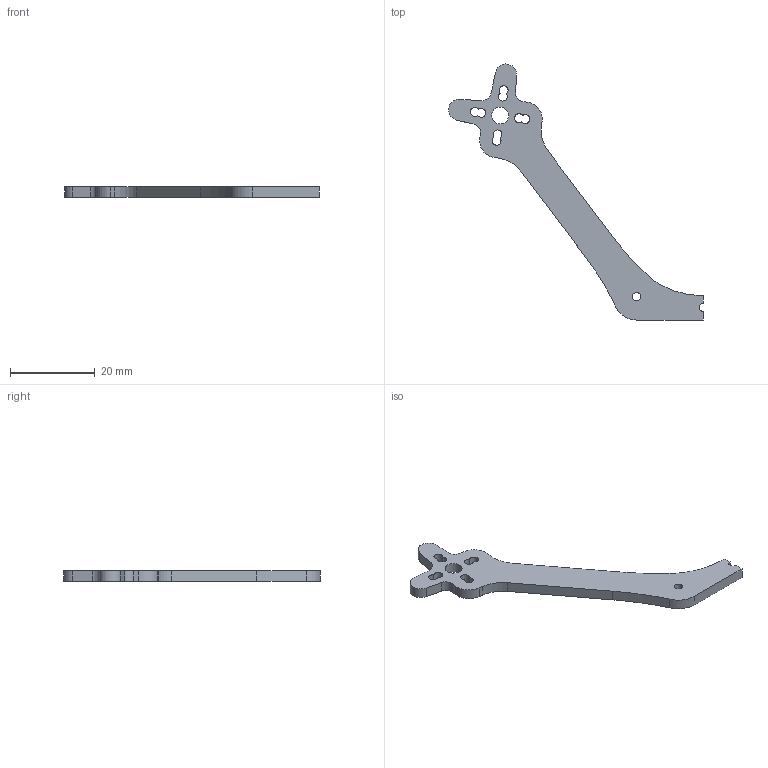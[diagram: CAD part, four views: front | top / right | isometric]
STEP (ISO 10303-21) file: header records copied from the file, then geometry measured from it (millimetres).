
FILE_DESCRIPTION(/* description */ (''),/* implementation_level */ '2;1');
FILE_NAME(/* name */ 'GoFlyPro - 3.5-Zoll - Arm - 9and12mm.step',/* time_stamp */ '2026-07-04T12:19:45+02:00',/* author */ (''),/* organization */ (''),/* preprocessor_version */ 'ST-DEVELOPER v20.1',/* originating_system */ 'Autodesk Translation Framework v15.8.0.0',/* authorisation */ '');
FILE_SCHEMA (('AUTOMOTIVE_DESIGN { 1 0 10303 214 3 1 1 }'));
Length unit declared in the file: millimetre
Products named in the file (1): GoFlyPro - 3.5-Zoll - Arm - 9and12mm
Bounding box: 60.11 x 60.39 x 2.5 mm (x, y, z)
Volume: 1754.3 mm3; surface area: 2029.2 mm2
Topology: 1 solids, 1 shells, 39 faces, 111 edges, 74 vertices
Faces by surface type: cylinder 21, plane 15, bspline 3
Full cylindrical faces by diameter (mm): 2 x1, 4 x1
Entity records: 1370 total; most frequent: CARTESIAN_POINT 240, DIRECTION 233, ORIENTED_EDGE 222, EDGE_CURVE 111, AXIS2_PLACEMENT_3D 85, VERTEX_POINT 74, LINE 63, VECTOR 63
